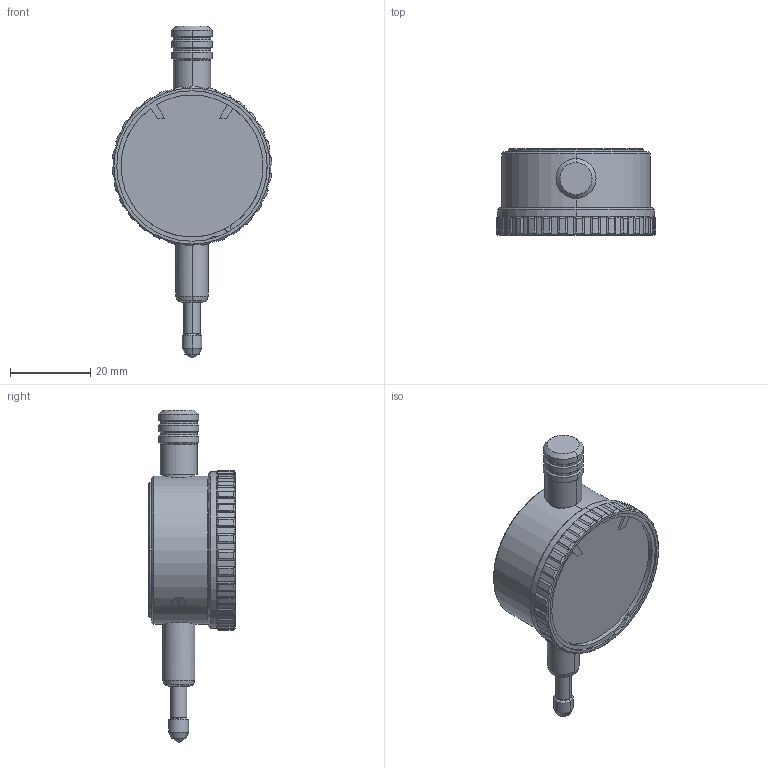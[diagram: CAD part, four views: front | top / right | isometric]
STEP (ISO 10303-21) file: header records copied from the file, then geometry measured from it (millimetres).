
FILE_DESCRIPTION(('STEP AP214'),'1');
FILE_NAME('SI-910.STP','2016-07-21T06:56:11',(' '),(' '),'Spatial InterOp 3D',' ',' ');
FILE_SCHEMA(('automotive_design'));
Length unit declared in the file: millimetre
Products named in the file (1): 1
Bounding box: 39.98 x 21.6 x 82.99 mm (x, y, z)
Volume: 24517.2 mm3; surface area: 6326.9 mm2
Topology: 1 solids, 5 shells, 302 faces, 779 edges, 503 vertices
Faces by surface type: cylinder 206, plane 55, cone 40, sphere 1
Entity records: 13725 total; most frequent: CARTESIAN_POINT 6589, ORIENTED_EDGE 1558, DIRECTION 1396, EDGE_CURVE 779, AXIS2_PLACEMENT_3D 550, VERTEX_POINT 503, EDGE_LOOP 324, ADVANCED_FACE 302
